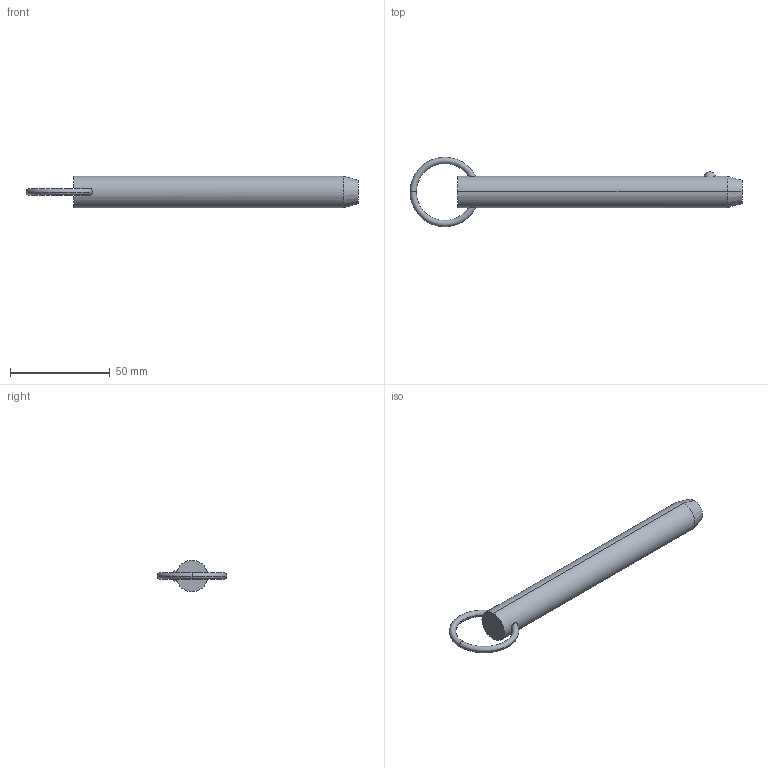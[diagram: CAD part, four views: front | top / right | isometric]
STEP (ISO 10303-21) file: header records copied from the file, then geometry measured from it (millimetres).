
FILE_DESCRIPTION (( 'STEP AP203' ), '1' );
FILE_NAME ('33010.W6245.step', '2024-11-01T10:42:16', ( '' ), ( '' ), 'SwSTEP 2.0', 'SolidWorks 2019', '' );
FILE_SCHEMA (( 'CONFIG_CONTROL_DESIGN' ));
Length unit declared in the file: millimetre
Products named in the file (3): 33010.W6245; Part2_33010.W6245; Part1_33010.W6245
Assembly tree (2 placements, depth 2):
  33010.W6245
    Part1_33010.W6245
    Part2_33010.W6245
Bounding box: 166.81 x 34.93 x 15.88 mm (x, y, z)
Volume: 28584 mm3; surface area: 8591.4 mm2
Topology: 2 solids, 2 shells, 16 faces, 31 edges, 18 vertices
Faces by surface type: torus 8, sphere 2, cone 2, cylinder 2, plane 2
Entity records: 889 total; most frequent: CARTESIAN_POINT 246, DIRECTION 88, ORIENTED_EDGE 62, AXIS2_PLACEMENT_3D 42, EDGE_CURVE 31, PERSON_AND_ORGANIZATION 26, CIRCLE 21, EDGE_LOOP 19
